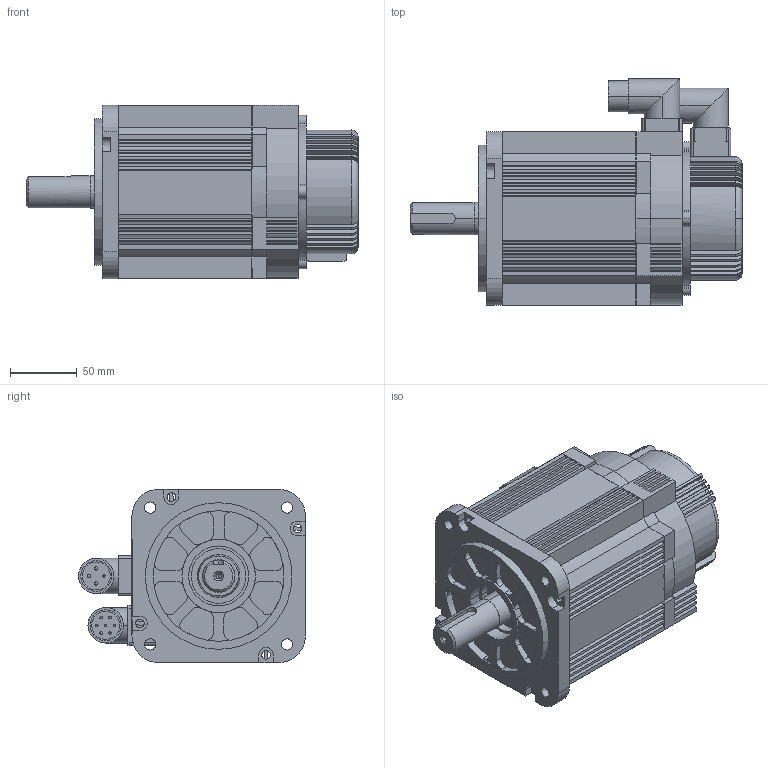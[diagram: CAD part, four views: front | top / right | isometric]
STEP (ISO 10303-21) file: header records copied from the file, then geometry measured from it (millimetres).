
FILE_DESCRIPTION (( 'STEP AP203' ), '1' );
FILE_NAME ('ACM13018H2F.STEP', '2021-04-02T09:15:16', ( '謂矨栲' ), ( 'Microsoft' ), 'SwSTEP 2.0', 'SolidWorks 2014', '' );
FILE_SCHEMA (( 'CONFIG_CONTROL_DESIGN' ));
Length unit declared in the file: millimetre
Products named in the file (1): ACM13018H2F
Bounding box: 249 x 170 x 130 mm (x, y, z)
Volume: 2564641 mm3; surface area: 220275.9 mm2
Topology: 1 solids, 1 shells, 787 faces, 2219 edges, 1429 vertices
Faces by surface type: plane 458, cylinder 270, torus 31, sphere 11, bspline 9, cone 8
Entity records: 26766 total; most frequent: CARTESIAN_POINT 6154, ORIENTED_EDGE 4346, DIRECTION 4313, EDGE_CURVE 2173, AXIS2_PLACEMENT_3D 1454, VERTEX_POINT 1407, LINE 1405, VECTOR 1405
